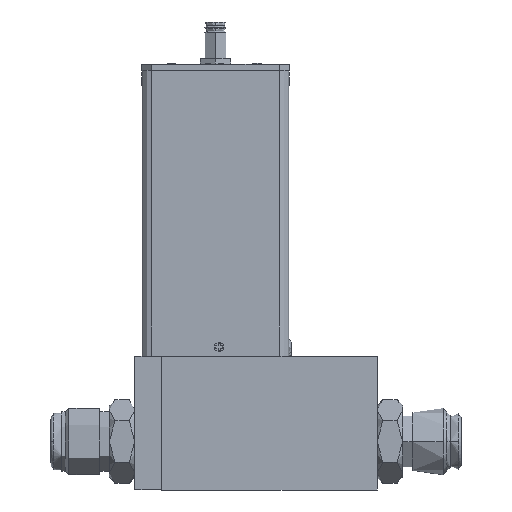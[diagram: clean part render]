
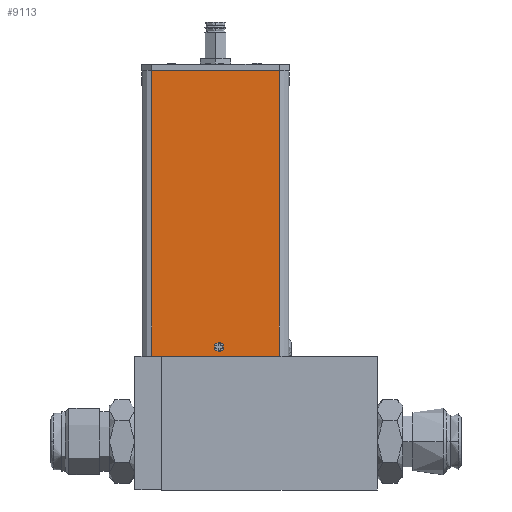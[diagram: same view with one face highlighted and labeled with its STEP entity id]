
A CAD part, front view. The second image highlights one B-rep face of the part: STEP entity #9113.
In plain terms, the highlighted planar face has unit normal (0, -1, 0).
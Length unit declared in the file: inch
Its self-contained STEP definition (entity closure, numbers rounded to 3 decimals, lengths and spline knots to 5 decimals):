
#244 = VECTOR ( 'NONE', #432, 39.37008 ) ;
#432 = DIRECTION ( 'NONE',  ( 0., 0., 1. ) ) ;
#811 = EDGE_CURVE ( 'NONE', #21960, #25771, #22609, .T. ) ;
#1106 = LINE ( 'NONE', #32749, #244 ) ;
#1163 = ORIENTED_EDGE ( 'NONE', *, *, #5187, .T. ) ;
#2001 = CARTESIAN_POINT ( 'NONE',  ( 1.07761, -0.0075, 1.60311 ) ) ;
#2226 = ORIENTED_EDGE ( 'NONE', *, *, #26557, .T. ) ;
#2229 = CARTESIAN_POINT ( 'NONE',  ( 1.07761, -0.0075, 1.60311 ) ) ;
#3225 = VERTEX_POINT ( 'NONE', #10007 ) ;
#4736 = DIRECTION ( 'NONE',  ( 0., 0., 1. ) ) ;
#4964 = DIRECTION ( 'NONE',  ( 0., 0., 1. ) ) ;
#5187 = EDGE_CURVE ( 'NONE', #25771, #25978, #32642, .T. ) ;
#5642 = CARTESIAN_POINT ( 'NONE',  ( 1.03036, -0.0075, 5.19964 ) ) ;
#7324 = CARTESIAN_POINT ( 'NONE',  ( 1.03036, -0.0075, 1.48511 ) ) ;
#8276 = VECTOR ( 'NONE', #24401, 39.37008 ) ;
#8439 = PLANE ( 'NONE',  #17566 ) ;
#8878 = VECTOR ( 'NONE', #15572, 39.37008 ) ;
#9113 = ADVANCED_FACE ( 'NONE', ( #23484, #24327 ), #8439, .T. ) ;
#9922 = CIRCLE ( 'NONE', #13548, 0.06299 ) ;
#10007 = CARTESIAN_POINT ( 'NONE',  ( 1.07761, -0.0075, 1.6661 ) ) ;
#10582 = EDGE_CURVE ( 'NONE', #11267, #3225, #9922, .T. ) ;
#11267 = VERTEX_POINT ( 'NONE', #29000 ) ;
#11483 = DIRECTION ( 'NONE',  ( 0., 0., -1. ) ) ;
#13190 = EDGE_CURVE ( 'NONE', #25978, #20107, #16058, .T. ) ;
#13548 = AXIS2_PLACEMENT_3D ( 'NONE', #2001, #20883, #4736 ) ;
#14824 = ORIENTED_EDGE ( 'NONE', *, *, #10582, .T. ) ;
#15572 = DIRECTION ( 'NONE',  ( 1., 0., 0. ) ) ;
#16058 = LINE ( 'NONE', #7324, #8878 ) ;
#16493 = AXIS2_PLACEMENT_3D ( 'NONE', #2229, #21105, #4964 ) ;
#16584 = DIRECTION ( 'NONE',  ( 0., 0., -1. ) ) ;
#17566 = AXIS2_PLACEMENT_3D ( 'NONE', #24470, #32695, #16584 ) ;
#17644 = CARTESIAN_POINT ( 'NONE',  ( 0.20236, -0.0075, 5.19964 ) ) ;
#18686 = CARTESIAN_POINT ( 'NONE',  ( 0.20236, -0.0075, 1.48511 ) ) ;
#19281 = ORIENTED_EDGE ( 'NONE', *, *, #811, .T. ) ;
#19797 = EDGE_LOOP ( 'NONE', ( #25306, #24127, #19281, #1163 ) ) ;
#20107 = VERTEX_POINT ( 'NONE', #21987 ) ;
#20883 = DIRECTION ( 'NONE',  ( 0., 1., 0. ) ) ;
#21105 = DIRECTION ( 'NONE',  ( 0., 1., 0. ) ) ;
#21960 = VERTEX_POINT ( 'NONE', #30997 ) ;
#21987 = CARTESIAN_POINT ( 'NONE',  ( 1.85836, -0.0075, 1.48511 ) ) ;
#22196 = CARTESIAN_POINT ( 'NONE',  ( 0.20236, -0.0075, 1.48511 ) ) ;
#22609 = LINE ( 'NONE', #5642, #8276 ) ;
#23484 = FACE_BOUND ( 'NONE', #25261, .T. ) ;
#24127 = ORIENTED_EDGE ( 'NONE', *, *, #27886, .T. ) ;
#24327 = FACE_OUTER_BOUND ( 'NONE', #19797, .T. ) ;
#24401 = DIRECTION ( 'NONE',  ( -1., 0., 0. ) ) ;
#24470 = CARTESIAN_POINT ( 'NONE',  ( 1.03036, -0.0075, 1.48511 ) ) ;
#25261 = EDGE_LOOP ( 'NONE', ( #2226, #14824 ) ) ;
#25306 = ORIENTED_EDGE ( 'NONE', *, *, #13190, .T. ) ;
#25485 = VECTOR ( 'NONE', #11483, 39.37008 ) ;
#25771 = VERTEX_POINT ( 'NONE', #17644 ) ;
#25978 = VERTEX_POINT ( 'NONE', #18686 ) ;
#26557 = EDGE_CURVE ( 'NONE', #3225, #11267, #29028, .T. ) ;
#27886 = EDGE_CURVE ( 'NONE', #20107, #21960, #1106, .T. ) ;
#29000 = CARTESIAN_POINT ( 'NONE',  ( 1.07761, -0.0075, 1.54012 ) ) ;
#29028 = CIRCLE ( 'NONE', #16493, 0.06299 ) ;
#30997 = CARTESIAN_POINT ( 'NONE',  ( 1.85836, -0.0075, 5.19964 ) ) ;
#32642 = LINE ( 'NONE', #22196, #25485 ) ;
#32695 = DIRECTION ( 'NONE',  ( 0., -1., 0. ) ) ;
#32749 = CARTESIAN_POINT ( 'NONE',  ( 1.85836, -0.0075, 1.48511 ) ) ;
